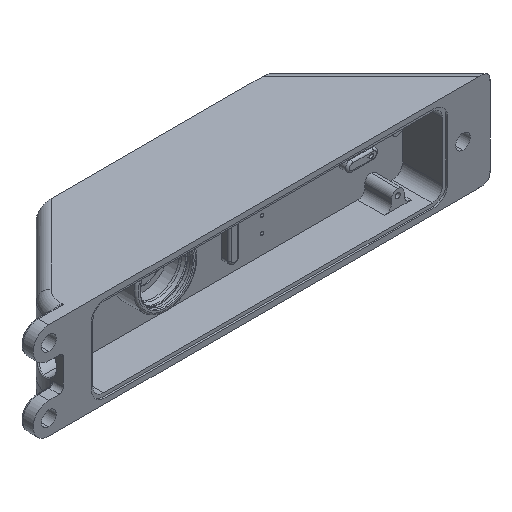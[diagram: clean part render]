
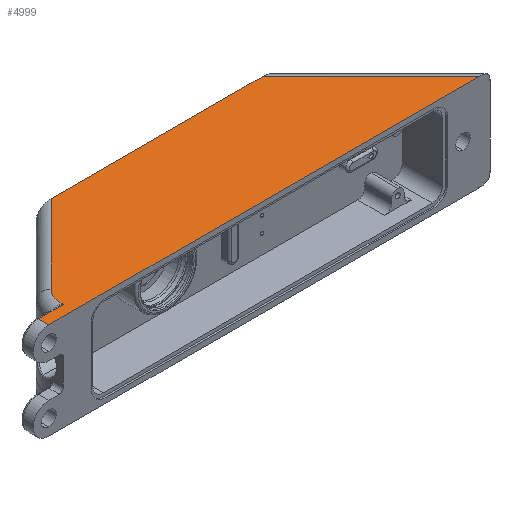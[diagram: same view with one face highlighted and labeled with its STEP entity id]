
A CAD part, isometric view. The second image highlights one B-rep face of the part: STEP entity #4999.
In plain terms, the highlighted planar face has unit normal (0, 0, 1).
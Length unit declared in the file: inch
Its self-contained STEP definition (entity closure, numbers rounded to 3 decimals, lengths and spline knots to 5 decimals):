
#44 = CARTESIAN_POINT ( 'NONE',  ( -0.175, 0., 0.58 ) ) ;
#70 = CARTESIAN_POINT ( 'NONE',  ( -0.175, 0.125, 0.58 ) ) ;
#120 = DIRECTION ( 'NONE',  ( 0., -1., 0. ) ) ;
#211 = CARTESIAN_POINT ( 'NONE',  ( -0.07411, 0.07411, 0.58 ) ) ;
#296 = DIRECTION ( 'NONE',  ( 1., 0., 0. ) ) ;
#300 = VECTOR ( 'NONE', #3499, 39.37008 ) ;
#924 = VECTOR ( 'NONE', #6730, 39.37008 ) ;
#1230 = LINE ( 'NONE', #2879, #300 ) ;
#1241 = DIRECTION ( 'NONE',  ( 0., 0., 1. ) ) ;
#1248 = CARTESIAN_POINT ( 'NONE',  ( 0.125, 0., 0.58 ) ) ;
#1390 = VERTEX_POINT ( 'NONE', #4355 ) ;
#1463 = EDGE_CURVE ( 'NONE', #1390, #6248, #2077, .T. ) ;
#1504 = DIRECTION ( 'NONE',  ( -0.707, 0.707, 0. ) ) ;
#1692 = ORIENTED_EDGE ( 'NONE', *, *, #1463, .T. ) ;
#1715 = CARTESIAN_POINT ( 'NONE',  ( 0.125, 0.125, 0.58 ) ) ;
#1808 = CARTESIAN_POINT ( 'NONE',  ( 0.415, 0.1531, 0.58 ) ) ;
#1933 = VECTOR ( 'NONE', #296, 39.37008 ) ;
#1946 = VERTEX_POINT ( 'NONE', #4449 ) ;
#1995 = PLANE ( 'NONE',  #3925 ) ;
#2019 = ORIENTED_EDGE ( 'NONE', *, *, #2114, .T. ) ;
#2077 = LINE ( 'NONE', #6481, #4826 ) ;
#2114 = EDGE_CURVE ( 'NONE', #4065, #1390, #4667, .T. ) ;
#2181 = VERTEX_POINT ( 'NONE', #7036 ) ;
#2404 = DIRECTION ( 'NONE',  ( -0.707, -0.707, 0. ) ) ;
#2518 = EDGE_CURVE ( 'NONE', #5938, #1946, #4066, .T. ) ;
#2679 = ORIENTED_EDGE ( 'NONE', *, *, #6093, .T. ) ;
#2731 = CARTESIAN_POINT ( 'NONE',  ( 0.125, 0.1531, 0.58 ) ) ;
#2879 = CARTESIAN_POINT ( 'NONE',  ( 3.875, 1.3, 0.58 ) ) ;
#3325 = ORIENTED_EDGE ( 'NONE', *, *, #7056, .T. ) ;
#3433 = ORIENTED_EDGE ( 'NONE', *, *, #4827, .T. ) ;
#3499 = DIRECTION ( 'NONE',  ( -1., 0., 0. ) ) ;
#3867 = FACE_OUTER_BOUND ( 'NONE', #6458, .T. ) ;
#3925 = AXIS2_PLACEMENT_3D ( 'NONE', #4381, #4208, #4995 ) ;
#4065 = VERTEX_POINT ( 'NONE', #44 ) ;
#4066 = LINE ( 'NONE', #211, #5536 ) ;
#4208 = DIRECTION ( 'NONE',  ( 0., 0., 1. ) ) ;
#4355 = CARTESIAN_POINT ( 'NONE',  ( 4.99822, 0., 0.58 ) ) ;
#4381 = CARTESIAN_POINT ( 'NONE',  ( 0., 0., 0.58 ) ) ;
#4426 = EDGE_CURVE ( 'NONE', #4718, #2181, #5020, .T. ) ;
#4442 = CIRCLE ( 'NONE', #5961, 0.29 ) ;
#4449 = CARTESIAN_POINT ( 'NONE',  ( 0.20994, 0.35816, 0.58 ) ) ;
#4531 = DIRECTION ( 'NONE',  ( 1., 0., 0. ) ) ;
#4622 = VECTOR ( 'NONE', #5715, 39.37008 ) ;
#4667 = LINE ( 'NONE', #5174, #1933 ) ;
#4718 = VERTEX_POINT ( 'NONE', #1715 ) ;
#4800 = ORIENTED_EDGE ( 'NONE', *, *, #6648, .T. ) ;
#4826 = VECTOR ( 'NONE', #1504, 39.37008 ) ;
#4827 = EDGE_CURVE ( 'NONE', #6301, #4718, #5271, .T. ) ;
#4995 = DIRECTION ( 'NONE',  ( 1., 0., 0. ) ) ;
#4999 = ADVANCED_FACE ( 'NONE', ( #3867 ), #1995, .T. ) ;
#5020 = LINE ( 'NONE', #70, #924 ) ;
#5075 = CARTESIAN_POINT ( 'NONE',  ( -0.175, 0.15, 0.58 ) ) ;
#5174 = CARTESIAN_POINT ( 'NONE',  ( 0., 0., 0.58 ) ) ;
#5247 = VECTOR ( 'NONE', #120, 39.37008 ) ;
#5271 = LINE ( 'NONE', #1248, #4622 ) ;
#5419 = ORIENTED_EDGE ( 'NONE', *, *, #4426, .T. ) ;
#5536 = VECTOR ( 'NONE', #2404, 39.37008 ) ;
#5715 = DIRECTION ( 'NONE',  ( 0., -1., 0. ) ) ;
#5938 = VERTEX_POINT ( 'NONE', #6168 ) ;
#5961 = AXIS2_PLACEMENT_3D ( 'NONE', #1808, #1241, #4531 ) ;
#6093 = EDGE_CURVE ( 'NONE', #6248, #5938, #1230, .T. ) ;
#6168 = CARTESIAN_POINT ( 'NONE',  ( 1.15178, 1.3, 0.58 ) ) ;
#6248 = VERTEX_POINT ( 'NONE', #6457 ) ;
#6301 = VERTEX_POINT ( 'NONE', #2731 ) ;
#6372 = ORIENTED_EDGE ( 'NONE', *, *, #2518, .T. ) ;
#6457 = CARTESIAN_POINT ( 'NONE',  ( 3.69822, 1.3, 0.58 ) ) ;
#6458 = EDGE_LOOP ( 'NONE', ( #3433, #5419, #3325, #2019, #1692, #2679, #6372, #4800 ) ) ;
#6481 = CARTESIAN_POINT ( 'NONE',  ( 2.49911, 2.49911, 0.58 ) ) ;
#6648 = EDGE_CURVE ( 'NONE', #1946, #6301, #4442, .T. ) ;
#6730 = DIRECTION ( 'NONE',  ( -1., 0., 0. ) ) ;
#6889 = LINE ( 'NONE', #5075, #5247 ) ;
#7036 = CARTESIAN_POINT ( 'NONE',  ( -0.175, 0.125, 0.58 ) ) ;
#7056 = EDGE_CURVE ( 'NONE', #2181, #4065, #6889, .T. ) ;
